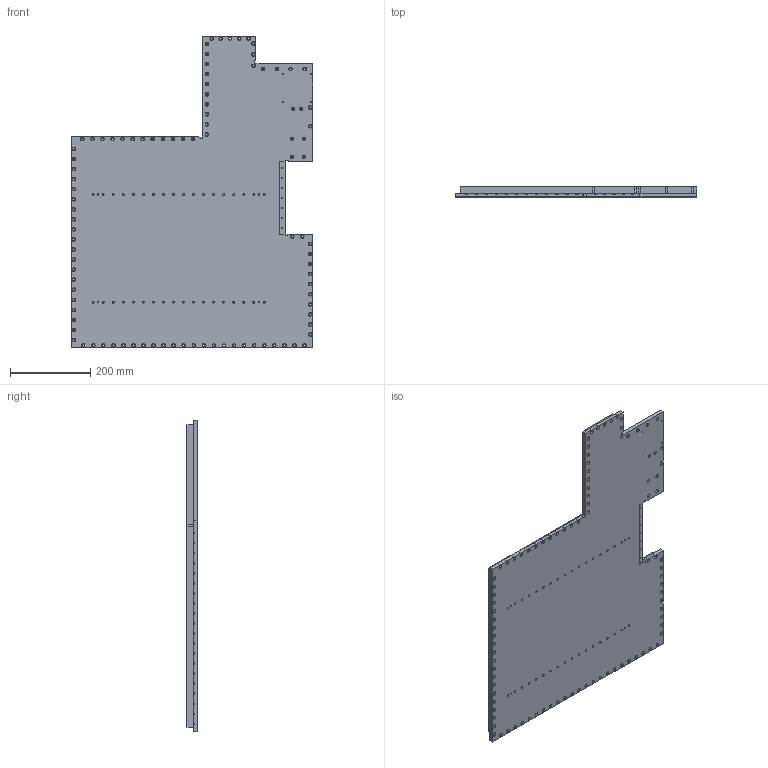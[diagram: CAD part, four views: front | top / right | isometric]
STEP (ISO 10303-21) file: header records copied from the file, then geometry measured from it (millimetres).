
FILE_DESCRIPTION(/* description */ (''),/* implementation_level */ '2;1');
FILE_NAME(/* name */ 'C:\Users\strothej\Documents\ActualDocuments\MicroscopeParts\TwoPhotonSystem\ScanningMechanics\v35\Drawings\Baseplate.stp',/* time_stamp */ '2017-09-23T15:40:05-07:00',/* author */ ('strothej'),/* organization */ (''),/* preprocessor_version */ 'ST-DEVELOPER v16.1',/* originating_system */ 'Autodesk Inventor 2016',/* authorisation */ '');
FILE_SCHEMA (('AUTOMOTIVE_DESIGN { 1 0 10303 214 3 1 1 }'));
Length unit declared in the file: millimetre
Products named in the file (1): Baseplate
Bounding box: 600 x 25 x 775 mm (x, y, z)
Volume: 8318143.9 mm3; surface area: 834651.1 mm2
Topology: 1 solids, 1 shells, 651 faces, 1513 edges, 973 vertices
Faces by surface type: cylinder 361, plane 173, cone 117
Full cylindrical faces by diameter (mm): 1.567 x4, 2.013 x2, 2.156 x4, 2.459 x16, 3 x25, 3.05 x1, 3.2 x1, 3.242 x20, 3.5 x2, 4.134 x2, 4.5 x6, 4.917 x52, 5.5 x91, 8 x6, 9 x91
Entity records: 15760 total; most frequent: DIRECTION 2970, CARTESIAN_POINT 2440, ORIENTED_EDGE 1888, EDGE_LOOP 1402, AXIS2_PLACEMENT_3D 1374, EDGE_CURVE 944, VERTEX_POINT 844, FACE_BOUND 751
